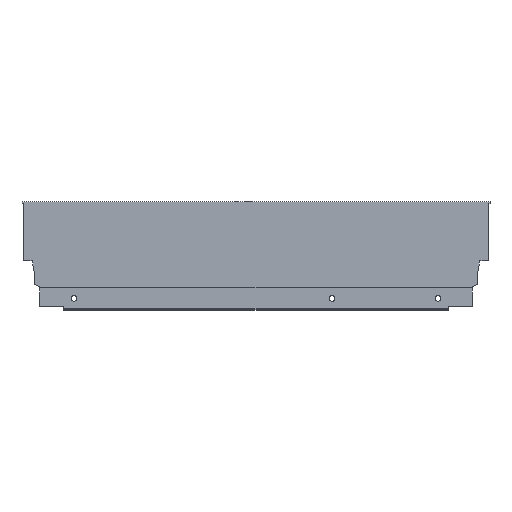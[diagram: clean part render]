
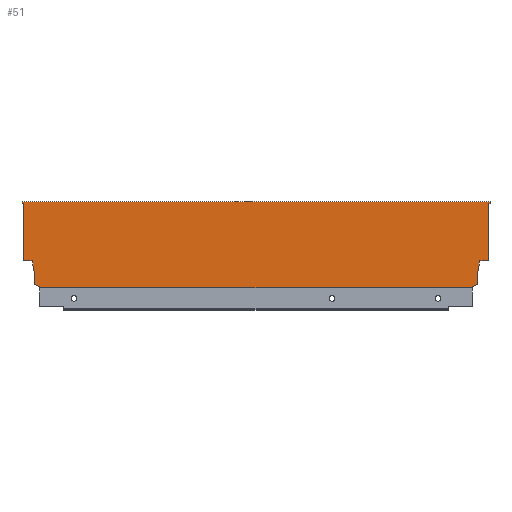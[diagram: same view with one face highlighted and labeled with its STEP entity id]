
A CAD part, top view. The second image highlights one B-rep face of the part: STEP entity #51.
In plain terms, the highlighted planar face has unit normal (0, 0, 1).
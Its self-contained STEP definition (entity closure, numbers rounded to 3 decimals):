
#51 = ADVANCED_FACE ( 'NONE', ( #125 ), #1075, .T. ) ;
#81 = VECTOR ( 'NONE', #1150, 1000. ) ;
#82 = LINE ( 'NONE', #1149, #81 ) ;
#125 = FACE_OUTER_BOUND ( 'NONE', #312, .T. ) ;
#165 = LINE ( 'NONE', #1190, #756 ) ;
#170 = LINE ( 'NONE', #1188, #284 ) ;
#171 = LINE ( 'NONE', #1186, #174 ) ;
#172 = LINE ( 'NONE', #1181, #176 ) ;
#174 = VECTOR ( 'NONE', #1187, 1000. ) ;
#175 = LINE ( 'NONE', #1196, #758 ) ;
#176 = VECTOR ( 'NONE', #1189, 1000. ) ;
#221 = ORIENTED_EDGE ( 'NONE', *, *, #655, .F. ) ;
#222 = ORIENTED_EDGE ( 'NONE', *, *, #653, .F. ) ;
#223 = ORIENTED_EDGE ( 'NONE', *, *, #619, .F. ) ;
#224 = ORIENTED_EDGE ( 'NONE', *, *, #651, .F. ) ;
#225 = ORIENTED_EDGE ( 'NONE', *, *, #649, .F. ) ;
#226 = ORIENTED_EDGE ( 'NONE', *, *, #647, .F. ) ;
#227 = ORIENTED_EDGE ( 'NONE', *, *, #650, .F. ) ;
#228 = ORIENTED_EDGE ( 'NONE', *, *, #648, .F. ) ;
#229 = ORIENTED_EDGE ( 'NONE', *, *, #636, .T. ) ;
#230 = ORIENTED_EDGE ( 'NONE', *, *, #646, .F. ) ;
#231 = ORIENTED_EDGE ( 'NONE', *, *, #645, .F. ) ;
#232 = ORIENTED_EDGE ( 'NONE', *, *, #644, .F. ) ;
#233 = ORIENTED_EDGE ( 'NONE', *, *, #637, .F. ) ;
#234 = ORIENTED_EDGE ( 'NONE', *, *, #640, .F. ) ;
#235 = ORIENTED_EDGE ( 'NONE', *, *, #643, .T. ) ;
#236 = ORIENTED_EDGE ( 'NONE', *, *, #638, .T. ) ;
#237 = ORIENTED_EDGE ( 'NONE', *, *, #641, .F. ) ;
#238 = ORIENTED_EDGE ( 'NONE', *, *, #642, .F. ) ;
#284 = VECTOR ( 'NONE', #1191, 1000. ) ;
#312 = EDGE_LOOP ( 'NONE', ( #238, #237, #236, #235, #234, #233, #232, #231, #230, #229, #228, #227, #226, #225, #224, #223, #222, #221 ) ) ;
#420 = AXIS2_PLACEMENT_3D ( 'NONE', #1083, #1089, #1090 ) ;
#487 = LINE ( 'NONE', #1198, #760 ) ;
#619 = EDGE_CURVE ( 'NONE', #1535, #1564, #82, .T. ) ;
#636 = EDGE_CURVE ( 'NONE', #1587, #1575, #171, .T. ) ;
#637 = EDGE_CURVE ( 'NONE', #1557, #1560, #172, .T. ) ;
#638 = EDGE_CURVE ( 'NONE', #1581, #1573, #170, .T. ) ;
#640 = EDGE_CURVE ( 'NONE', #1560, #1569, #754, .T. ) ;
#641 = EDGE_CURVE ( 'NONE', #1581, #1577, #165, .T. ) ;
#642 = EDGE_CURVE ( 'NONE', #1577, #1572, #175, .T. ) ;
#643 = EDGE_CURVE ( 'NONE', #1573, #1569, #487, .T. ) ;
#644 = EDGE_CURVE ( 'NONE', #1540, #1557, #762, .T. ) ;
#645 = EDGE_CURVE ( 'NONE', #1588, #1540, #757, .T. ) ;
#646 = EDGE_CURVE ( 'NONE', #1587, #1588, #759, .T. ) ;
#647 = EDGE_CURVE ( 'NONE', #1578, #1570, #768, .T. ) ;
#648 = EDGE_CURVE ( 'NONE', #1571, #1575, #761, .T. ) ;
#649 = EDGE_CURVE ( 'NONE', #1580, #1578, #772, .T. ) ;
#650 = EDGE_CURVE ( 'NONE', #1570, #1571, #765, .T. ) ;
#651 = EDGE_CURVE ( 'NONE', #1564, #1580, #767, .T. ) ;
#653 = EDGE_CURVE ( 'NONE', #1600, #1535, #775, .T. ) ;
#655 = EDGE_CURVE ( 'NONE', #1572, #1600, #777, .T. ) ;
#754 = LINE ( 'NONE', #1194, #755 ) ;
#755 = VECTOR ( 'NONE', #1195, 1000. ) ;
#756 = VECTOR ( 'NONE', #1197, 1000. ) ;
#757 = LINE ( 'NONE', #1200, #764 ) ;
#758 = VECTOR ( 'NONE', #1199, 1000. ) ;
#759 = LINE ( 'NONE', #1204, #766 ) ;
#760 = VECTOR ( 'NONE', #1201, 1000. ) ;
#761 = LINE ( 'NONE', #1206, #770 ) ;
#762 = LINE ( 'NONE', #1202, #763 ) ;
#763 = VECTOR ( 'NONE', #1203, 1000. ) ;
#764 = VECTOR ( 'NONE', #1205, 1000. ) ;
#765 = LINE ( 'NONE', #1210, #774 ) ;
#766 = VECTOR ( 'NONE', #1207, 1000. ) ;
#767 = LINE ( 'NONE', #1214, #776 ) ;
#768 = LINE ( 'NONE', #1208, #769 ) ;
#769 = VECTOR ( 'NONE', #1209, 1000. ) ;
#770 = VECTOR ( 'NONE', #1211, 1000. ) ;
#772 = LINE ( 'NONE', #1212, #773 ) ;
#773 = VECTOR ( 'NONE', #1213, 1000. ) ;
#774 = VECTOR ( 'NONE', #1215, 1000. ) ;
#775 = LINE ( 'NONE', #1218, #780 ) ;
#776 = VECTOR ( 'NONE', #1217, 1000. ) ;
#777 = LINE ( 'NONE', #1220, #784 ) ;
#780 = VECTOR ( 'NONE', #1221, 1000. ) ;
#784 = VECTOR ( 'NONE', #1225, 1000. ) ;
#1075 = PLANE ( 'NONE',  #420 ) ;
#1083 = CARTESIAN_POINT ( 'NONE',  ( -367., 0., 7.5 ) ) ;
#1089 = DIRECTION ( 'NONE',  ( 0., 0., 1. ) ) ;
#1090 = DIRECTION ( 'NONE',  ( 1., 0., 0. ) ) ;
#1149 = CARTESIAN_POINT ( 'NONE',  ( 0., 0., 7.5 ) ) ;
#1150 = DIRECTION ( 'NONE',  ( 0., -1., 0. ) ) ;
#1181 = CARTESIAN_POINT ( 'NONE',  ( -359.94, 21.2, 7.5 ) ) ;
#1186 = CARTESIAN_POINT ( 'NONE',  ( -367., 0., 7.5 ) ) ;
#1187 = DIRECTION ( 'NONE',  ( 1., 0., 0. ) ) ;
#1188 = CARTESIAN_POINT ( 'NONE',  ( -368., 66.5, 7.5 ) ) ;
#1189 = DIRECTION ( 'NONE',  ( -0.174, 0.985, 0. ) ) ;
#1190 = CARTESIAN_POINT ( 'NONE',  ( -368., 66.5, 7.5 ) ) ;
#1191 = DIRECTION ( 'NONE',  ( 1., 0., 0. ) ) ;
#1194 = CARTESIAN_POINT ( 'NONE',  ( -372., 21.2, 7.5 ) ) ;
#1195 = DIRECTION ( 'NONE',  ( -1., 0., 0. ) ) ;
#1196 = CARTESIAN_POINT ( 'NONE',  ( -367., 68., 7.5 ) ) ;
#1197 = DIRECTION ( 'NONE',  ( 0., 1., 0. ) ) ;
#1198 = CARTESIAN_POINT ( 'NONE',  ( -367., 0., 7.5 ) ) ;
#1199 = DIRECTION ( 'NONE',  ( 1., 0., 0. ) ) ;
#1200 = CARTESIAN_POINT ( 'NONE',  ( -358.1, 2.64, 7.5 ) ) ;
#1201 = DIRECTION ( 'NONE',  ( 0., -1., 0. ) ) ;
#1202 = CARTESIAN_POINT ( 'NONE',  ( -358.1, 10.765, 7.5 ) ) ;
#1203 = DIRECTION ( 'NONE',  ( 0., 1., 0. ) ) ;
#1204 = CARTESIAN_POINT ( 'NONE',  ( -353.996, 1.146, 7.5 ) ) ;
#1205 = DIRECTION ( 'NONE',  ( -0.94, 0.342, 0. ) ) ;
#1206 = CARTESIAN_POINT ( 'NONE',  ( -13.004, 1.146, 7.5 ) ) ;
#1207 = DIRECTION ( 'NONE',  ( 0., 1., 0. ) ) ;
#1208 = CARTESIAN_POINT ( 'NONE',  ( -8.9, 10.765, 7.5 ) ) ;
#1209 = DIRECTION ( 'NONE',  ( 0., -1., 0. ) ) ;
#1210 = CARTESIAN_POINT ( 'NONE',  ( -8.9, 2.64, 7.5 ) ) ;
#1211 = DIRECTION ( 'NONE',  ( 0., -1., 0. ) ) ;
#1212 = CARTESIAN_POINT ( 'NONE',  ( -7.06, 21.2, 7.5 ) ) ;
#1213 = DIRECTION ( 'NONE',  ( -0.174, -0.985, 0. ) ) ;
#1214 = CARTESIAN_POINT ( 'NONE',  ( 0., 21.2, 7.5 ) ) ;
#1215 = DIRECTION ( 'NONE',  ( -0.94, -0.342, 0. ) ) ;
#1217 = DIRECTION ( 'NONE',  ( -1., 0., 0. ) ) ;
#1218 = CARTESIAN_POINT ( 'NONE',  ( 1., 66.5, 7.5 ) ) ;
#1220 = CARTESIAN_POINT ( 'NONE',  ( 1., 68., 7.5 ) ) ;
#1221 = DIRECTION ( 'NONE',  ( -1., 0., 0. ) ) ;
#1225 = DIRECTION ( 'NONE',  ( 0., -1., 0. ) ) ;
#1420 = CARTESIAN_POINT ( 'NONE',  ( 0., 66.5, 7.5 ) ) ;
#1422 = CARTESIAN_POINT ( 'NONE',  ( -358.1, 2.64, 7.5 ) ) ;
#1439 = CARTESIAN_POINT ( 'NONE',  ( -358.1, 10.765, 7.5 ) ) ;
#1442 = CARTESIAN_POINT ( 'NONE',  ( -359.94, 21.2, 7.5 ) ) ;
#1446 = CARTESIAN_POINT ( 'NONE',  ( 0., 21.2, 7.5 ) ) ;
#1451 = CARTESIAN_POINT ( 'NONE',  ( -367., 21.2, 7.5 ) ) ;
#1452 = CARTESIAN_POINT ( 'NONE',  ( -8.9, 2.64, 7.5 ) ) ;
#1453 = CARTESIAN_POINT ( 'NONE',  ( -13.004, 1.146, 7.5 ) ) ;
#1454 = CARTESIAN_POINT ( 'NONE',  ( 1., 68., 7.5 ) ) ;
#1455 = CARTESIAN_POINT ( 'NONE',  ( -367., 66.5, 7.5 ) ) ;
#1457 = CARTESIAN_POINT ( 'NONE',  ( -13.004, 0., 7.5 ) ) ;
#1459 = CARTESIAN_POINT ( 'NONE',  ( -368., 68., 7.5 ) ) ;
#1460 = CARTESIAN_POINT ( 'NONE',  ( -8.9, 10.765, 7.5 ) ) ;
#1462 = CARTESIAN_POINT ( 'NONE',  ( -7.06, 21.2, 7.5 ) ) ;
#1463 = CARTESIAN_POINT ( 'NONE',  ( -368., 66.5, 7.5 ) ) ;
#1469 = CARTESIAN_POINT ( 'NONE',  ( -353.996, 0., 7.5 ) ) ;
#1470 = CARTESIAN_POINT ( 'NONE',  ( -353.996, 1.146, 7.5 ) ) ;
#1482 = CARTESIAN_POINT ( 'NONE',  ( 1., 66.5, 7.5 ) ) ;
#1535 = VERTEX_POINT ( 'NONE', #1420 ) ;
#1540 = VERTEX_POINT ( 'NONE', #1422 ) ;
#1557 = VERTEX_POINT ( 'NONE', #1439 ) ;
#1560 = VERTEX_POINT ( 'NONE', #1442 ) ;
#1564 = VERTEX_POINT ( 'NONE', #1446 ) ;
#1569 = VERTEX_POINT ( 'NONE', #1451 ) ;
#1570 = VERTEX_POINT ( 'NONE', #1452 ) ;
#1571 = VERTEX_POINT ( 'NONE', #1453 ) ;
#1572 = VERTEX_POINT ( 'NONE', #1454 ) ;
#1573 = VERTEX_POINT ( 'NONE', #1455 ) ;
#1575 = VERTEX_POINT ( 'NONE', #1457 ) ;
#1577 = VERTEX_POINT ( 'NONE', #1459 ) ;
#1578 = VERTEX_POINT ( 'NONE', #1460 ) ;
#1580 = VERTEX_POINT ( 'NONE', #1462 ) ;
#1581 = VERTEX_POINT ( 'NONE', #1463 ) ;
#1587 = VERTEX_POINT ( 'NONE', #1469 ) ;
#1588 = VERTEX_POINT ( 'NONE', #1470 ) ;
#1600 = VERTEX_POINT ( 'NONE', #1482 ) ;
